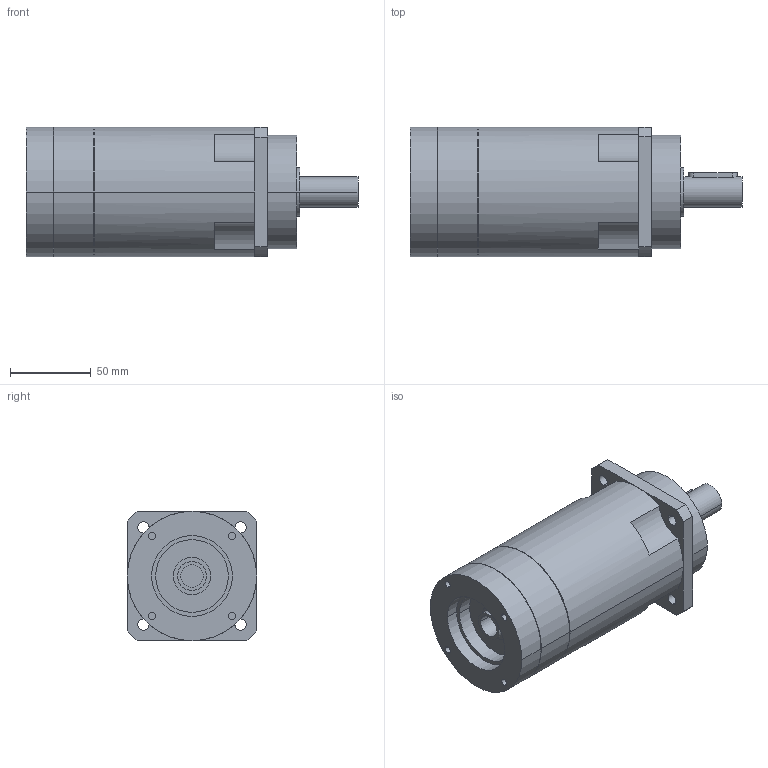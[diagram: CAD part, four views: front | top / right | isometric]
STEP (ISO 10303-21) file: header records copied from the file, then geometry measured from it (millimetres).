
FILE_DESCRIPTION(('CoCreate Modeling STEP Export'),'2;1');
FILE_NAME('GPR100_ig-48-64-80-100-120-144-180-216_19_B5_14_P15.stp','2014-08-26T11:55:09',(''),(''),'CoCreate Modeling STEP processor for AP214 (Solid Model)','CoCreate Modeling 16.00C 25-Feb-2009 (C) Parametric Technology GmbH','');
FILE_SCHEMA(('AUTOMOTIVE_DESIGN { 1 0 10303 214 1 1 1 1 }'));
Length unit declared in the file: millimetre
Products named in the file (2): GPR100_ig-48-64-80-100-120-144-180-216_19_B5_14_P15
Assembly tree (1 placements, depth 2):
  GPR100_ig-48-64-80-100-120-144-180-216_19_B5_14_P15
    GPR100_ig-48-64-80-100-120-144-180-216_19_B5_14_P15
Bounding box: 205.4 x 80 x 80 mm (x, y, z)
Volume: 798390.2 mm3; surface area: 64180.3 mm2
Topology: 1 solids, 1 shells, 99 faces, 258 edges, 178 vertices
Faces by surface type: cylinder 58, plane 35, cone 6
Entity records: 2684 total; most frequent: ORIENTED_EDGE 512, CARTESIAN_POINT 480, DIRECTION 386, EDGE_CURVE 256, VERTEX_POINT 178, AXIS2_PLACEMENT_3D 148, EDGE_LOOP 126, FACE_OUTER_BOUND 99
